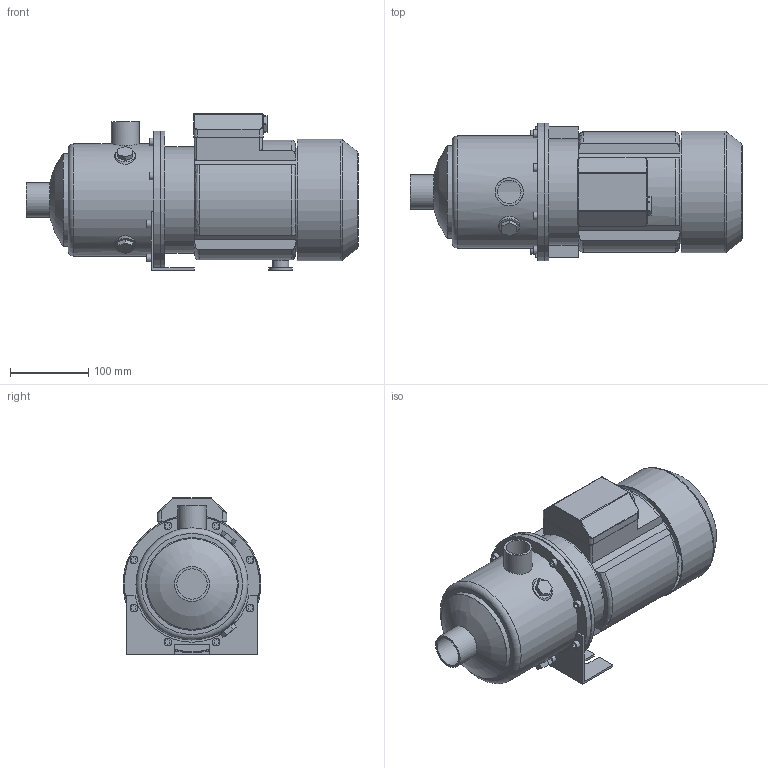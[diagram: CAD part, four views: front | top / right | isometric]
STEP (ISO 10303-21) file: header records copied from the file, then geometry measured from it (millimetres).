
FILE_DESCRIPTION(/* description */ ('Unknown'),/* implementation_level */ '2;1');
FILE_NAME(/* name */ 'MH 5 [4] T',/* time_stamp */ '2026-07-10T14:59:05+02:00',/* author */ ('Unknown'),/* organization */ ('Unknown'),/* preprocessor_version */ 'ST-DEVELOPER v20',/* originating_system */ 'Solid Edge',/* authorisation */ 'Unknown');
FILE_SCHEMA (('AUTOMOTIVE_DESIGN {1 0 10303 214 3 1 1}'));
Length unit declared in the file: millimetre
Products named in the file (10): MH 5 [4] T; Flangia motore Tonda M80; Corpo MH 3-5 [4]; Mot_Wendy_MEC80_11-15_T; carcassa MEC 80-Wendy; Copriventola MEC 80-Wendy; Basetta MEC 80 T-Wendy_new; Piedino MEC 80 int.90; Staffa 3-5-9 int.90
Assembly tree (8 placements, depth 3):
  MH 5 [4] T
    Flangia motore Tonda M80
    Corpo MH 3-5 [4]
    Mot_Wendy_MEC80_11-15_T
      carcassa MEC 80-Wendy
      Copriventola MEC 80-Wendy
      Basetta MEC 80 T-Wendy_new
    Piedino MEC 80 int.90
    Staffa 3-5-9 int.90
  (unnamed)
Bounding box: 425.1 x 176.5 x 200.5 mm (x, y, z)
Volume: 2042951.2 mm3; surface area: 545216 mm2
Topology: 8 solids, 8 shells, 276 faces, 647 edges, 429 vertices
Faces by surface type: plane 163, cylinder 74, torus 19, cone 14, bspline 4, sphere 2
Full cylindrical faces by diameter (mm): 7 x4, 10 x9, 13.5 x1, 17.5 x1, 21 x1, 30 x1, 30.291 x1, 36 x1, 38.952 x1, 44.5 x1, 116.1 x1, 118.5 x1, 125 x1, 130 x3, 134 x1, 136 x1, 141.1 x1, 143.5 x1, 153.5 x1, 155.5 x1, 173.5 x1, 174.1 x1, 176.5 x2
Entity records: 8860 total; most frequent: CARTESIAN_POINT 1595, DIRECTION 1262, ORIENTED_EDGE 1118, EDGE_CURVE 559, AXIS2_PLACEMENT_3D 461, VERTEX_POINT 398, EDGE_LOOP 385, FACE_BOUND 385
